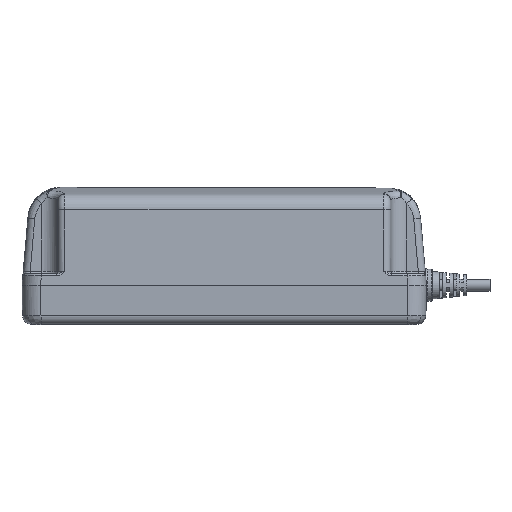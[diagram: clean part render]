
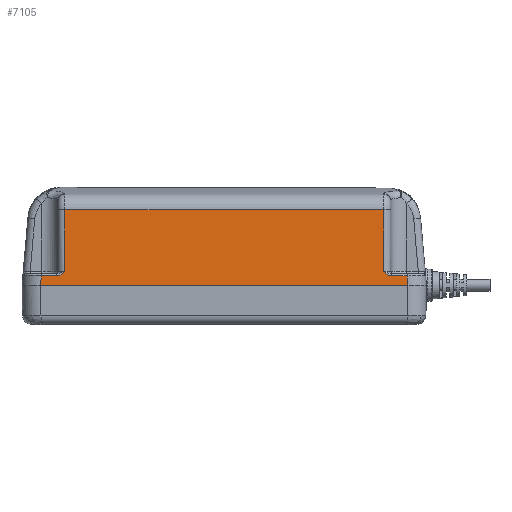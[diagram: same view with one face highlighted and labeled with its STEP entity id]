
A CAD part, front view. The second image highlights one B-rep face of the part: STEP entity #7105.
In plain terms, the highlighted planar face has unit normal (0, -1, 0.026).
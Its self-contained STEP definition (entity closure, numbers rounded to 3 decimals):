
#294 = CARTESIAN_POINT ( 'NONE',  ( 72.433, -58.395, 4.026 ) ) ;
#298 = CARTESIAN_POINT ( 'NONE',  ( -69., -58.344, 5.974 ) ) ;
#303 = CARTESIAN_POINT ( 'NONE',  ( -69., -58.5, 0. ) ) ;
#304 = CARTESIAN_POINT ( 'NONE',  ( -69.24, -58.35, 5.734 ) ) ;
#305 = CARTESIAN_POINT ( 'NONE',  ( -69.481, -58.356, 5.496 ) ) ;
#306 = CARTESIAN_POINT ( 'NONE',  ( -69.986, -58.368, 5.045 ) ) ;
#307 = CARTESIAN_POINT ( 'NONE',  ( -70.252, -58.373, 4.832 ) ) ;
#308 = CARTESIAN_POINT ( 'NONE',  ( -70.818, -58.383, 4.466 ) ) ;
#309 = CARTESIAN_POINT ( 'NONE',  ( -71.116, -58.387, 4.311 ) ) ;
#310 = CARTESIAN_POINT ( 'NONE',  ( -71.761, -58.393, 4.089 ) ) ;
#311 = CARTESIAN_POINT ( 'NONE',  ( -72.092, -58.395, 4.026 ) ) ;
#312 = CARTESIAN_POINT ( 'NONE',  ( -72.433, -58.395, 4.026 ) ) ;
#313 = DIRECTION ( 'NONE',  ( 0., -0.026, -1. ) ) ;
#314 = CARTESIAN_POINT ( 'NONE',  ( -87.5, -57.645, 32.642 ) ) ;
#315 = DIRECTION ( 'NONE',  ( -1., 0., 0. ) ) ;
#316 = CARTESIAN_POINT ( 'NONE',  ( -87.5, -58.395, 4.026 ) ) ;
#317 = DIRECTION ( 'NONE',  ( -1., 0., 0. ) ) ;
#318 = CARTESIAN_POINT ( 'NONE',  ( -79.549, -58.518, -0.695 ) ) ;
#319 = DIRECTION ( 'NONE',  ( -0.087, -0.026, -0.996 ) ) ;
#320 = CARTESIAN_POINT ( 'NONE',  ( -87.5, -58.5, 0. ) ) ;
#321 = DIRECTION ( 'NONE',  ( 1., 0., 0. ) ) ;
#322 = CARTESIAN_POINT ( 'NONE',  ( 78.22, -58.121, 14.489 ) ) ;
#323 = DIRECTION ( 'NONE',  ( -0.087, 0.026, 0.996 ) ) ;
#324 = CARTESIAN_POINT ( 'NONE',  ( 69., -58.395, 4.026 ) ) ;
#325 = DIRECTION ( 'NONE',  ( -1., 0., 0. ) ) ;
#327 = CARTESIAN_POINT ( 'NONE',  ( 72.092, -58.395, 4.026 ) ) ;
#328 = CARTESIAN_POINT ( 'NONE',  ( 71.761, -58.393, 4.089 ) ) ;
#329 = CARTESIAN_POINT ( 'NONE',  ( 71.116, -58.387, 4.311 ) ) ;
#330 = CARTESIAN_POINT ( 'NONE',  ( 70.818, -58.383, 4.466 ) ) ;
#331 = CARTESIAN_POINT ( 'NONE',  ( 70.252, -58.373, 4.832 ) ) ;
#332 = CARTESIAN_POINT ( 'NONE',  ( 69.986, -58.368, 5.045 ) ) ;
#333 = CARTESIAN_POINT ( 'NONE',  ( 69.481, -58.356, 5.496 ) ) ;
#334 = CARTESIAN_POINT ( 'NONE',  ( 69.238, -58.35, 5.736 ) ) ;
#335 = CARTESIAN_POINT ( 'NONE',  ( 69., -58.344, 5.974 ) ) ;
#336 = CARTESIAN_POINT ( 'NONE',  ( 69., -58.5, 0. ) ) ;
#337 = DIRECTION ( 'NONE',  ( 0., 0.026, 1. ) ) ;
#739 = B_SPLINE_CURVE_WITH_KNOTS ( 'NONE', 3,
 ( #298, #304, #305, #306, #307, #308, #309, #310, #311, #312 ),
 .UNSPECIFIED., .F., .F.,
 ( 4, 2, 2, 2, 4 ),
 ( 0., 0.001, 0.002, 0.003, 0.004 ),
 .UNSPECIFIED. ) ;
#740 = B_SPLINE_CURVE_WITH_KNOTS ( 'NONE', 3,
 ( #294, #327, #328, #329, #330, #331, #332, #333, #334, #335 ),
 .UNSPECIFIED., .F., .F.,
 ( 4, 2, 2, 2, 4 ),
 ( 0., 0.001, 0.002, 0.003, 0.004 ),
 .UNSPECIFIED. ) ;
#3290 = CARTESIAN_POINT ( 'NONE',  ( -69., -58.344, 5.974 ) ) ;
#3294 = CARTESIAN_POINT ( 'NONE',  ( -69., -57.645, 32.642 ) ) ;
#3295 = CARTESIAN_POINT ( 'NONE',  ( -72.433, -58.395, 4.026 ) ) ;
#3296 = CARTESIAN_POINT ( 'NONE',  ( 69., -57.645, 32.642 ) ) ;
#3622 = EDGE_CURVE ( 'NONE', #13608, #13613, #739, .T. ) ;
#3623 = EDGE_CURVE ( 'NONE', #13612, #13608, #7210, .T. ) ;
#3624 = EDGE_CURVE ( 'NONE', #13614, #13612, #7211, .T. ) ;
#3625 = EDGE_CURVE ( 'NONE', #13613, #3902, #7213, .T. ) ;
#3626 = EDGE_CURVE ( 'NONE', #3902, #8334, #7215, .T. ) ;
#3627 = EDGE_CURVE ( 'NONE', #8334, #8304, #7217, .T. ) ;
#3628 = EDGE_CURVE ( 'NONE', #8304, #3903, #7219, .T. ) ;
#3629 = EDGE_CURVE ( 'NONE', #3903, #8307, #7221, .T. ) ;
#3630 = EDGE_CURVE ( 'NONE', #8307, #8303, #740, .T. ) ;
#3631 = EDGE_CURVE ( 'NONE', #8303, #13614, #7207, .T. ) ;
#3902 = VERTEX_POINT ( 'NONE', #9672 ) ;
#3903 = VERTEX_POINT ( 'NONE', #9687 ) ;
#4220 = EDGE_LOOP ( 'NONE', ( #12048, #12049, #12050, #12051, #12052, #12053, #12054, #12055, #12056, #12057 ) ) ;
#5487 = AXIS2_PLACEMENT_3D ( 'NONE', #11476, #11482, #11483 ) ;
#5596 = FACE_OUTER_BOUND ( 'NONE', #4220, .T. ) ;
#6355 = CARTESIAN_POINT ( 'NONE',  ( 69., -58.344, 5.974 ) ) ;
#6356 = CARTESIAN_POINT ( 'NONE',  ( 79.488, -58.5, 0. ) ) ;
#6357 = CARTESIAN_POINT ( 'NONE',  ( 72.433, -58.395, 4.026 ) ) ;
#6365 = CARTESIAN_POINT ( 'NONE',  ( -79.488, -58.5, 0. ) ) ;
#7105 = ADVANCED_FACE ( 'NONE', ( #5596 ), #11477, .T. ) ;
#7205 = VECTOR ( 'NONE', #313, 1000. ) ;
#7207 = LINE ( 'NONE', #336, #7209 ) ;
#7209 = VECTOR ( 'NONE', #337, 1000. ) ;
#7210 = LINE ( 'NONE', #303, #7205 ) ;
#7211 = LINE ( 'NONE', #314, #7212 ) ;
#7212 = VECTOR ( 'NONE', #315, 1000. ) ;
#7213 = LINE ( 'NONE', #316, #7214 ) ;
#7214 = VECTOR ( 'NONE', #317, 1000. ) ;
#7215 = LINE ( 'NONE', #318, #7216 ) ;
#7216 = VECTOR ( 'NONE', #319, 1000. ) ;
#7217 = LINE ( 'NONE', #320, #7218 ) ;
#7218 = VECTOR ( 'NONE', #321, 1000. ) ;
#7219 = LINE ( 'NONE', #322, #7220 ) ;
#7220 = VECTOR ( 'NONE', #323, 1000. ) ;
#7221 = LINE ( 'NONE', #324, #7222 ) ;
#7222 = VECTOR ( 'NONE', #325, 1000. ) ;
#8303 = VERTEX_POINT ( 'NONE', #6355 ) ;
#8304 = VERTEX_POINT ( 'NONE', #6356 ) ;
#8307 = VERTEX_POINT ( 'NONE', #6357 ) ;
#8334 = VERTEX_POINT ( 'NONE', #6365 ) ;
#9672 = CARTESIAN_POINT ( 'NONE',  ( -79.136, -58.395, 4.026 ) ) ;
#9687 = CARTESIAN_POINT ( 'NONE',  ( 79.136, -58.395, 4.026 ) ) ;
#11476 = CARTESIAN_POINT ( 'NONE',  ( -87.5, -58.5, 0. ) ) ;
#11477 = PLANE ( 'NONE',  #5487 ) ;
#11482 = DIRECTION ( 'NONE',  ( 0., -1., 0.026 ) ) ;
#11483 = DIRECTION ( 'NONE',  ( 0., -0.026, -1. ) ) ;
#12048 = ORIENTED_EDGE ( 'NONE', *, *, #3624, .T. ) ;
#12049 = ORIENTED_EDGE ( 'NONE', *, *, #3623, .T. ) ;
#12050 = ORIENTED_EDGE ( 'NONE', *, *, #3622, .T. ) ;
#12051 = ORIENTED_EDGE ( 'NONE', *, *, #3625, .T. ) ;
#12052 = ORIENTED_EDGE ( 'NONE', *, *, #3626, .T. ) ;
#12053 = ORIENTED_EDGE ( 'NONE', *, *, #3627, .T. ) ;
#12054 = ORIENTED_EDGE ( 'NONE', *, *, #3628, .T. ) ;
#12055 = ORIENTED_EDGE ( 'NONE', *, *, #3629, .T. ) ;
#12056 = ORIENTED_EDGE ( 'NONE', *, *, #3630, .T. ) ;
#12057 = ORIENTED_EDGE ( 'NONE', *, *, #3631, .T. ) ;
#13608 = VERTEX_POINT ( 'NONE', #3290 ) ;
#13612 = VERTEX_POINT ( 'NONE', #3294 ) ;
#13613 = VERTEX_POINT ( 'NONE', #3295 ) ;
#13614 = VERTEX_POINT ( 'NONE', #3296 ) ;
